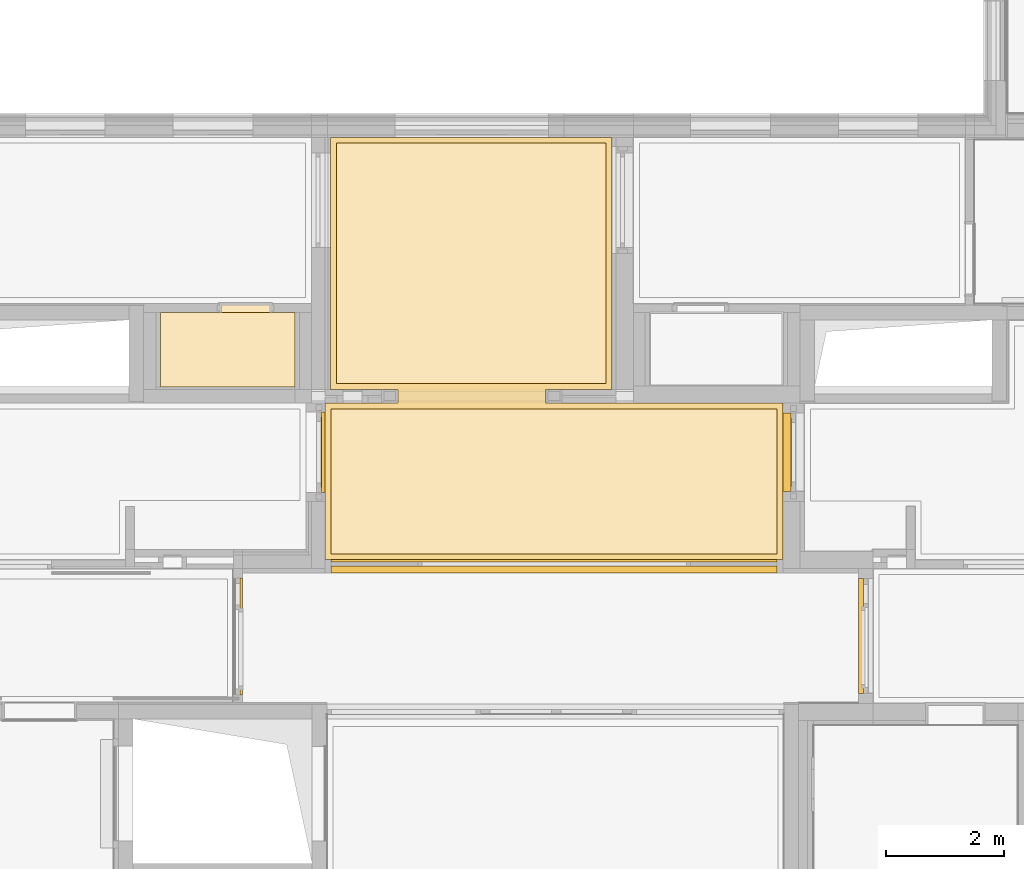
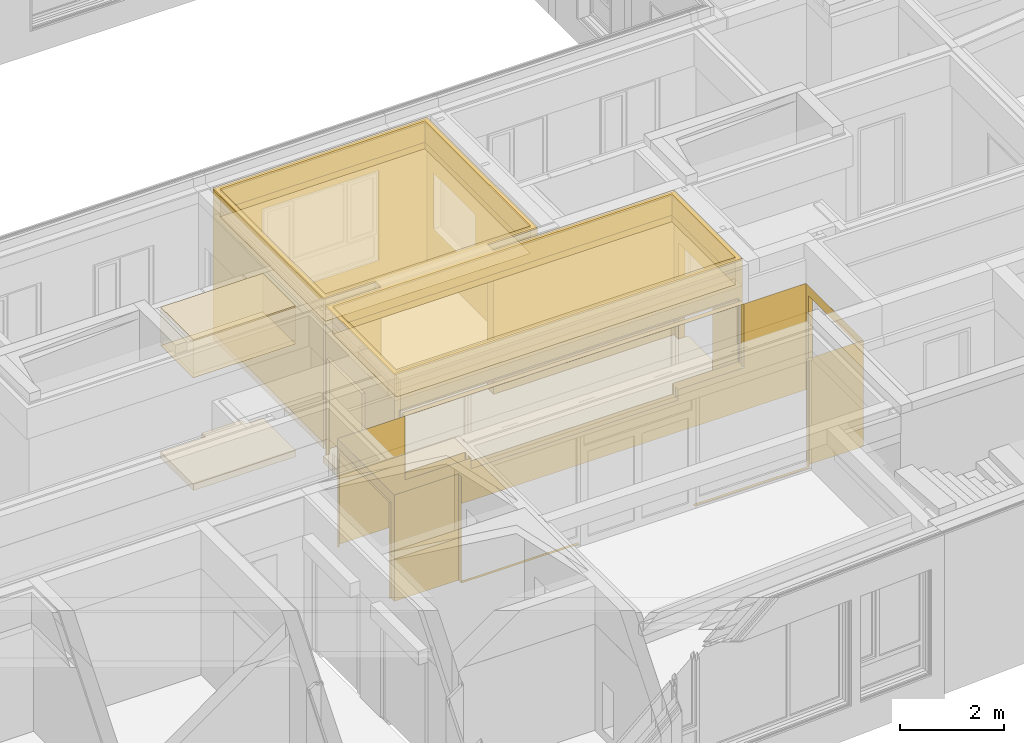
# One storey, part 168 of 222: 20 coverings.
"""IFC4 building model written with IfcOpenShell, lengths in metres."""

from ifc_helpers import new_model, entity, si_unit, converted_unit, derived_unit, frame, frame_2d, origin, origin_with_axes, place, context, subcontext, project, spatial, polyline, rectangle, outline, extrude, material, layer, layer_set, layer_usage, element, save


model = new_model("IFC4")

# Units and contexts
model_context = context("Model", 3, precision=1e-05, world=origin())
body_context = subcontext(model_context, "Body", "Model", "MODEL_VIEW")
ifc_project = project(units=[si_unit("LENGTHUNIT", "METRE"), si_unit("AREAUNIT", "SQUARE_METRE"), si_unit("VOLUMEUNIT", "CUBIC_METRE"), si_unit("MASSUNIT", "GRAM", prefix="KILO"), converted_unit("PLANEANGLEUNIT", "DEGREE", entity("IfcPlaneAngleMeasure", 0.0174532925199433), si_unit("PLANEANGLEUNIT", "RADIAN"), dimensions=[0, 0, 0, 0, 0, 0, 0]), derived_unit("THERMALTRANSMITTANCEUNIT", [(si_unit("POWERUNIT", "WATT"), 1), (si_unit("THERMODYNAMICTEMPERATUREUNIT", "KELVIN"), -1), (si_unit("LENGTHUNIT", "METRE"), -2)]), derived_unit("VOLUMETRICFLOWRATEUNIT", [(si_unit("LENGTHUNIT", "METRE"), 3), (converted_unit("TIMEUNIT", "hour", entity("IfcTimeMeasure", 3600.0), si_unit("TIMEUNIT", "SECOND"), dimensions=[0, 0, 1, 0, 0, 0, 0]), -1), (si_unit("LENGTHUNIT", "METRE"), -1)])], contexts=[model_context])

# Site, building, storey, space
site_placement = place(None, origin())
site = spatial("IfcSite", under=ifc_project, at=site_placement, Name="Psychiatrie Neubau Wunstorf", CompositionType="ELEMENT")
building_placement = place(site_placement, origin())
building = spatial("IfcBuilding", under=site, at=building_placement, Name="Neubau H2 Stationsgebäude", CompositionType="ELEMENT")
storey_placement = place(building_placement, frame((0.0, 0.0, 3.6)))
storey = spatial("IfcBuildingStorey", under=building, at=storey_placement, Name="H2 Ebene +1", CompositionType="ELEMENT", Elevation=3.6)
space_1_placement = place(storey_placement, frame((49.119690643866, 0.436002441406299, 0.0)))
space_1 = spatial("IfcSpace", under=storey, at=space_1_placement, Name="WUN-H2-E01-F01", CompositionType="ELEMENT")

# Covering
ifc_material_1 = material(Name="49")
ifc_layer_1 = layer(ifc_material_1, 0.001)
ifc_layer_set_1 = layer_set([ifc_layer_1])
ifc_layer_usage_1 = layer_usage(ifc_layer_set_1, "AXIS3", "POSITIVE", 0.0)
covering_1_placement = place(space_1_placement, frame((-0.0375, 0.0, 0.15)))
element("IfcCovering", 1, at=covering_1_placement, inside=space_1, material=ifc_layer_usage_1, PredefinedType="CLADDING", context=body_context, shape_type="SweptSolid", body=[
    extrude(rectangle(XDim=0.113997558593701, YDim=2.5, at=frame_2d((0.0569987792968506, -1.25), x_axis=(1.0, 0.0))), frame((1.46780935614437, 0.113997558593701, 0.0), z_axis=(1.0, 0.0, 0.0), x_axis=(0.0, -1.0, 0.0)), (0.0, 0.0, 1.0), 0.001),
    extrude(rectangle(XDim=2.59899980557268, YDim=0.0500000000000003, at=frame_2d((1.2994999, -0.025), x_axis=(1.0, 0.0))), frame((1.46780935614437, 0.0, 0.0), z_axis=(0.0, 1.0, 0.0), x_axis=(1.0, 0.0, 0.0)), (0.0, 0.0, 1.0), 0.001),
    extrude(rectangle(XDim=0.0499999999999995, YDim=2.56900018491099, at=frame_2d((1.2845000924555, 0.0249999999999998), x_axis=(0.0, 1.0))), frame((6.62680917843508, 0.0, 0.0499999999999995), z_axis=(0.0, 1.0, 0.0), x_axis=(1.0, 0.0, 0.0)), (0.0, 0.0, 1.0), 0.001),
    extrude(rectangle(XDim=0.1, YDim=2.5, at=frame_2d((0.05, -1.25), x_axis=(1.0, 0.0))), frame((9.19580936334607, 0.0, 0.0), z_axis=(-1.0, 1.45519152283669e-13, 0.0), x_axis=(1.45519152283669e-13, 1.0, 0.0)), (0.0, 0.0, 1.0), 0.001),
    extrude(rectangle(XDim=1.26131381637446, YDim=2.5, at=frame_2d((0.630656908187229, -1.25), x_axis=(1.0, 0.0))), frame((9.19580936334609, 0.1, 0.0), z_axis=(2.90022717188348e-09, 1.0, 0.0), x_axis=(1.0, -2.90022717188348e-09, 0.0)), (0.0, 0.0, 1.0), 0.001),
    extrude(outline(polyline([(0.0, 2.5), (0.169992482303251, 2.5), (0.169992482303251, 0.24), (2.11249248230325, 0.24), (2.11249248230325, 2.5), (2.20649725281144, 2.5), (2.20649725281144, 0.0), (0.0, 0.0), (0.0, 2.5)])), frame((10.4571231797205, 0.0999999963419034, 2.5), z_axis=(-1.0, 5.74817194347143e-17, -2.85468523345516e-15), x_axis=(5.74817194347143e-17, 1.0, 0.0)), (0.0, 0.0, 1.0), 0.001),
    extrude(outline(polyline([(0.0, 2.5), (10.4196231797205, 2.5), (10.4196231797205, 0.0), (8.92131374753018, 0.0), (8.92131374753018, 1.5), (7.44881374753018, 1.5), (7.44881374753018, 1.75), (2.84121374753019, 1.75), (2.84121374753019, 1.5), (1.37931374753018, 1.5), (1.37931374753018, 0.0), (0.0, 0.0), (0.0, 2.5)])), frame((10.4571231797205, 2.30649724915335, 2.5), z_axis=(-9.47367501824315e-17, -1.0, 1.92250926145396e-18), x_axis=(-1.0, 9.47367501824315e-17, 0.0)), (0.0, 0.0, 1.0), 0.001),
    extrude(outline(polyline([(0.0, 2.5), (0.0799998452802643, 2.5), (0.0799998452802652, 0.24), (2.06249984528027, 0.24), (2.06249984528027, 2.5), (2.19249969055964, 2.5), (2.19249969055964, 0.0), (0.0, 0.0), (0.0, 2.5)])), frame((0.0375000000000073, 2.30649724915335, 2.5), z_axis=(1.0, 0.0, 1.89734166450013e-15), x_axis=(0.0, -1.0, 0.0)), (0.0, 0.0, 1.0), 0.001),
    extrude(rectangle(XDim=1.43030935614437, YDim=2.5, at=frame_2d((0.715154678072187, -1.25), x_axis=(1.0, 0.0))), frame((0.0375, 0.113997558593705, 0.0), z_axis=(2.70245906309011e-15, 1.0, 0.0), x_axis=(1.0, -2.70245906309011e-15, 0.0)), (0.0, 0.0, 1.0), 0.001),
    extrude(rectangle(XDim=2.26, YDim=0.0849999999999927, at=frame_2d((0.0424999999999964, 1.13), x_axis=(0.0, 1.0))), frame((10.5421231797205, 2.21249247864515, 2.26), z_axis=(0.0, -1.0, 0.0), x_axis=(-1.0, 0.0, 0.0)), (0.0, 0.0, 1.0), 0.001),
    extrude(rectangle(XDim=1.9425, YDim=0.0849999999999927, at=frame_2d((-0.0425000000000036, -0.97125), x_axis=(-7.4913334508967e-15, -1.0))), frame((10.5421231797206, 0.269992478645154, 2.26), z_axis=(0.0, 0.0, -1.0), x_axis=(1.0, 0.0, 0.0)), (0.0, 0.0, 1.0), 0.001),
    extrude(rectangle(XDim=0.085, YDim=2.26, at=frame_2d((0.0425000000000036, -1.13), x_axis=(1.0, 0.0))), frame((10.4571231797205, 0.269992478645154, 0.0), z_axis=(6.68746104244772e-16, 1.0, -2.51519552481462e-17), x_axis=(1.0, -6.68746104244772e-16, 0.0)), (0.0, 0.0, 1.0), 0.001),
    extrude(rectangle(XDim=1.5, YDim=0.115, at=frame_2d((-0.0575, -0.75), x_axis=(0.0, -1.0))), frame((1.53580943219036, 2.30649724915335, 1.0), z_axis=(1.0, 0.0, 0.0), x_axis=(0.0, -1.0, 0.0)), (0.0, 0.0, 1.0), 0.001),
    extrude(rectangle(XDim=7.542, YDim=0.115, at=frame_2d((-3.771, 0.0574999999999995), x_axis=(-1.0, -1.20590652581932e-16))), frame((9.07780943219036, 2.42149724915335, 2.5), z_axis=(0.0, 0.0, -1.0), x_axis=(1.0, 0.0, 0.0)), (0.0, 0.0, 1.0), 0.001),
    extrude(rectangle(XDim=1.5, YDim=0.114999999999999, at=frame_2d((-0.0574999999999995, -0.75), x_axis=(0.0, -1.0))), frame((9.07780943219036, 2.42149724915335, 1.0), z_axis=(-1.0, 0.0, 0.0), x_axis=(0.0, 1.0, 0.0)), (0.0, 0.0, 1.0), 0.001),
    extrude(rectangle(XDim=0.25, YDim=0.115, at=frame_2d((-0.0574999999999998, -0.125), x_axis=(0.0, -1.0))), frame((7.61590943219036, 2.42149724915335, 0.75), z_axis=(-1.0, 0.0, 0.0), x_axis=(0.0, 1.0, 0.0)), (0.0, 0.0, 1.0), 0.001),
    extrude(rectangle(XDim=0.25, YDim=0.115, at=frame_2d((-0.0575, -0.125), x_axis=(0.0, -1.0))), frame((3.00830943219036, 2.30649724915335, 0.75), z_axis=(1.0, 0.0, 0.0), x_axis=(0.0, -1.0, 0.0)), (0.0, 0.0, 1.0), 0.001),
    extrude(rectangle(XDim=0.0375, YDim=2.26, at=frame_2d((0.01875, -1.13), x_axis=(1.0, 0.0))), frame((0.0375, 2.22649740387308, 0.0), z_axis=(0.0, -1.0, 0.0), x_axis=(-1.0, 0.0, 0.0)), (0.0, 0.0, 1.0), 0.001),
    extrude(rectangle(XDim=1.9825, YDim=0.0375, at=frame_2d((-0.01875, -0.99125), x_axis=(0.0, -1.0))), frame((0.0375, 0.243997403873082, 2.26), z_axis=(0.0, 0.0, -1.0), x_axis=(1.0, 0.0, 0.0)), (0.0, 0.0, 1.0), 0.001),
    extrude(rectangle(XDim=2.26, YDim=0.0375000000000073, at=frame_2d((0.01875, 1.13), x_axis=(-3.21945027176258e-15, 1.0))), frame((0.0, 0.243997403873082, 2.26), z_axis=(-1.51582450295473e-15, 1.0, -2.51519552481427e-17), x_axis=(1.0, 1.51582450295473e-15, 0.0)), (0.0, 0.0, 1.0), 0.001),
])

# Space
space_2_placement = place(storey_placement, frame((47.735, 5.88950021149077, 0.0)))
space_2 = spatial("IfcSpace", under=storey, at=space_2_placement, Name="WUN-H2-E01-012b", CompositionType="ELEMENT")

# Coverings
ifc_material_2 = material(Name="Fl1")
ifc_layer_2 = layer(ifc_material_2, 0.15)
ifc_layer_set_2 = layer_set([ifc_layer_2])
ifc_layer_usage_2 = layer_usage(ifc_layer_set_2, "AXIS3", "POSITIVE", 0.0)
covering_2_placement = place(space_2_placement, origin())
element("IfcCovering", 2, at=covering_2_placement, inside=space_2, material=ifc_layer_usage_2, Name="Fliesen", PredefinedType="FLOORING", context=body_context, shape_type="SweptSolid", body=[
    extrude(rectangle(XDim=0.15, YDim=0.885, at=frame_2d((0.4425, -0.075), x_axis=(0.0, -1.0))), frame((0.997500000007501, 1.41049947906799, 0.0), z_axis=(0.0, 0.0, 1.0), x_axis=(1.0, 0.0, 0.0)), (0.0, 0.0, 1.0), 0.15),
    extrude(outline(polyline([(2.27600000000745, 1.26049916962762), (0.0, 1.26049947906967), (0.0, 0.0), (2.27600000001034, 0.0), (2.27600000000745, 1.26049916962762)])), origin_with_axes(), (0.0, 0.0, 1.0), 0.15),
])
ifc_material_3 = material()
ifc_layer_3 = layer(ifc_material_3, 0.036)
ifc_layer_set_3 = layer_set([ifc_layer_3])
ifc_layer_usage_3 = layer_usage(ifc_layer_set_3, "AXIS3", "POSITIVE", 0.0)
covering_3_placement = place(space_2_placement, frame((0.0, 0.0, 3.55)))
element("IfcCovering", 3, at=covering_3_placement, inside=space_2, material=ifc_layer_usage_3, Name="Gipsfaserplatten 2-lagig (BSK)", PredefinedType="CEILING", context=body_context, shape_type="SweptSolid", body=[
    extrude(outline(polyline([(0.0, 0.0), (2.27600000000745, 3.09442053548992e-07), (2.27600000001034, 1.26049947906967), (0.0, 1.26049947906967), (0.0, 0.0)])), frame((0.0, 1.26049947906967, 0.0), z_axis=(0.0, 0.0, -1.0), x_axis=(1.0, 0.0, 0.0)), (0.0, 0.0, 1.0), 0.036),
])
ifc_material_4 = material(Name="Installationshöhe")
ifc_layer_4 = layer(ifc_material_4, 0.764)
ifc_layer_set_4 = layer_set([ifc_layer_4])
ifc_layer_usage_4 = layer_usage(ifc_layer_set_4, "AXIS3", "POSITIVE", 0.0)
covering_4_placement = place(space_2_placement, frame((0.0, 0.0, 3.514)))
element("IfcCovering", 4, at=covering_4_placement, inside=space_2, material=ifc_layer_usage_4, Name="Gipsfaserplatten 2-lagig (BSK)", PredefinedType="CEILING", context=body_context, shape_type="SweptSolid", body=[
    extrude(outline(polyline([(0.0, 0.0), (2.27600000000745, 3.09442053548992e-07), (2.27600000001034, 1.26049947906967), (0.0, 1.26049947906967), (0.0, 0.0)])), frame((0.0, 1.26049947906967, 0.0), z_axis=(0.0, 0.0, -1.0), x_axis=(1.0, 0.0, 0.0)), (0.0, 0.0, 1.0), 0.764),
])
ifc_material_5 = material(Name="B")
ifc_layer_5 = layer(ifc_material_5, 0.1)
ifc_layer_set_5 = layer_set([ifc_layer_5])
ifc_layer_usage_5 = layer_usage(ifc_layer_set_5, "AXIS3", "POSITIVE", 0.0)
covering_5_placement = place(space_2_placement, frame((0.0, 0.0, 2.75)))
element("IfcCovering", 5, at=covering_5_placement, inside=space_2, material=ifc_layer_usage_5, Name="Gipskarton, imprägniert", PredefinedType="CEILING", context=body_context, shape_type="SweptSolid", body=[
    extrude(outline(polyline([(0.0, 0.0), (2.27600000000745, 3.09442053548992e-07), (2.27600000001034, 1.26049947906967), (0.0, 1.26049947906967), (0.0, 0.0)])), frame((0.0, 1.26049947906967, 0.0), z_axis=(0.0, 0.0, -1.0), x_axis=(1.0, 0.0, 0.0)), (0.0, 0.0, 1.0), 0.1),
])
ifc_material_6 = material(Name="D1")
ifc_layer_6 = layer(ifc_material_6, 0.001)
ifc_layer_set_6 = layer_set([ifc_layer_6])
ifc_layer_usage_6 = layer_usage(ifc_layer_set_6, "AXIS3", "POSITIVE", 0.0)
covering_6_placement = place(space_2_placement, frame((0.0, 0.0, 2.65)))
element("IfcCovering", 6, at=covering_6_placement, inside=space_2, material=ifc_layer_usage_6, Name="Gipsfaserplatten 2-lagig (BSK)", PredefinedType="CEILING", context=body_context, shape_type="SweptSolid", body=[
    extrude(outline(polyline([(0.0, 0.0), (2.27600000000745, 3.09442053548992e-07), (2.27600000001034, 1.26049947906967), (0.0, 1.26049947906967), (0.0, 0.0)])), frame((0.0, 1.26049947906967, 0.0), z_axis=(0.0, 0.0, -1.0), x_axis=(1.0, 0.0, 0.0)), (0.0, 0.0, 1.0), 0.001),
])

# Space
space_3_placement = place(storey_placement, frame((50.5180000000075, 2.96749969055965, 0.0)))
space_3 = spatial("IfcSpace", under=storey, at=space_3_placement, Name="WUN-H2-E01-073", CompositionType="ELEMENT")

# Coverings
ifc_material_7 = material()
ifc_layer_7 = layer(ifc_material_7, 0.036)
ifc_layer_set_7 = layer_set([ifc_layer_7])
ifc_layer_usage_7 = layer_usage(ifc_layer_set_7, "AXIS3", "POSITIVE", 0.0)
covering_7_placement = place(space_3_placement, frame((0.1, 0.0999999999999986, 3.55)))
element("IfcCovering", 7, at=covering_7_placement, inside=space_3, material=ifc_layer_usage_7, Name="Gipsfaserplatten 2-lagig (BSK)", PredefinedType="CEILING", context=body_context, shape_type="SweptSolid", body=[
    extrude(rectangle(XDim=2.45000052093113, YDim=7.5419891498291, at=frame_2d((3.77099455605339, -1.22500026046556), x_axis=(-1.53968614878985e-08, -1.0))), frame((3.77223186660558e-08, 0.0, 0.0), z_axis=(0.0, 0.0, -1.0), x_axis=(1.0, 0.0, 0.0)), (0.0, 0.0, 1.0), 0.036),
])
ifc_material_8 = material(Name="Installationshöhe")
ifc_layer_8 = layer(ifc_material_8, 0.464)
ifc_layer_set_8 = layer_set([ifc_layer_8])
ifc_layer_usage_8 = layer_usage(ifc_layer_set_8, "AXIS3", "POSITIVE", 0.0)
covering_8_placement = place(space_3_placement, frame((0.1, 0.0999999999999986, 3.514)))
element("IfcCovering", 8, at=covering_8_placement, inside=space_3, material=ifc_layer_usage_8, Name="Gipsfaserplatten 2-lagig (BSK)", PredefinedType="CEILING", context=body_context, shape_type="SweptSolid", body=[
    extrude(rectangle(XDim=2.45000052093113, YDim=7.5419891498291, at=frame_2d((3.77099455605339, -1.22500026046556), x_axis=(-1.53968614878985e-08, -1.0))), frame((3.77223186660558e-08, 0.0, 0.0), z_axis=(0.0, 0.0, -1.0), x_axis=(1.0, 0.0, 0.0)), (0.0, 0.0, 1.0), 0.464),
])
ifc_material_9 = material(Name="Aa")
ifc_layer_9 = layer(ifc_material_9, 0.15)
ifc_layer_set_9 = layer_set([ifc_layer_9])
ifc_layer_usage_9 = layer_usage(ifc_layer_set_9, "AXIS3", "POSITIVE", 0.0)
covering_9_placement = place(space_3_placement, frame((0.1, 0.0999999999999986, 3.05)))
element("IfcCovering", 9, at=covering_9_placement, inside=space_3, material=ifc_layer_usage_9, Name="Gipsfaserplatten 2-lagig (BSK)", PredefinedType="CEILING", context=body_context, shape_type="SweptSolid", body=[
    extrude(rectangle(XDim=2.45000052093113, YDim=7.5419891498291, at=frame_2d((3.77099455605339, -1.22500026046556), x_axis=(-1.53968614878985e-08, -1.0))), frame((3.77223186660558e-08, 0.0, 0.0), z_axis=(0.0, 0.0, -1.0), x_axis=(1.0, 0.0, 0.0)), (0.0, 0.0, 1.0), 0.15),
])
ifc_material_10 = material(Name="D1")
ifc_layer_10 = layer(ifc_material_10, 0.001)
ifc_layer_set_10 = layer_set([ifc_layer_10])
ifc_layer_usage_10 = layer_usage(ifc_layer_set_10, "AXIS3", "POSITIVE", 0.0)
covering_10_placement = place(space_3_placement, frame((0.1, 0.0999999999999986, 2.9)))
element("IfcCovering", 10, at=covering_10_placement, inside=space_3, material=ifc_layer_usage_10, Name="Gipsfaserplatten 2-lagig (BSK)", PredefinedType="CEILING", context=body_context, shape_type="SweptSolid", body=[
    extrude(rectangle(XDim=2.45000052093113, YDim=7.5419891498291, at=frame_2d((3.77099455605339, -1.22500026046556), x_axis=(-1.53968614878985e-08, -1.0))), frame((3.77223186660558e-08, 0.0, 0.0), z_axis=(0.0, 0.0, -1.0), x_axis=(1.0, 0.0, 0.0)), (0.0, 0.0, 1.0), 0.001),
])
ifc_material_11 = material()
ifc_layer_11 = layer(ifc_material_11, 0.036)
ifc_layer_set_11 = layer_set([ifc_layer_11])
ifc_layer_usage_11 = layer_usage(ifc_layer_set_11, "AXIS3", "POSITIVE", 0.0)
covering_11_placement = place(space_3_placement, frame((0.0, 0.0, 3.55)))
element("IfcCovering", 11, at=covering_11_placement, inside=space_3, material=ifc_layer_usage_11, Name="Gipsfaserplatten 2-lagig (BSK)", PredefinedType="CEILING", context=body_context, shape_type="SweptSolid", body=[
    extrude(outline(polyline([(0.0, 4.49650000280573), (1.23225000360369, 4.49650000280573), (1.23225000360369, 4.26450052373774), (0.0895000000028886, 4.26450000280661), (0.0895000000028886, 0.0), (4.84950000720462, 5.23736860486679e-07), (4.84950000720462, 4.26450052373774), (3.73225000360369, 4.26450052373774), (3.73225000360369, 4.49650052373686), (7.74200003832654, 4.49650052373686), (7.74200007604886, 7.14650052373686), (3.77223186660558e-08, 7.14650052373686), (0.0, 4.49650000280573)]), holes=[polyline([(4.74950000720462, 4.16450052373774), (4.74950000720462, 0.0998314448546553), (0.189500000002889, 0.1), (0.189500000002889, 4.16450000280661), (4.74950000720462, 4.16450052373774)]), polyline([(0.1, 4.59650000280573), (0.100000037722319, 7.04650052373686), (7.64198918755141, 7.04650052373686), (7.6419891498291, 4.59650000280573), (0.1, 4.59650000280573)])]), frame((0.0, 7.14650052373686, 0.0), z_axis=(0.0, 0.0, -1.0), x_axis=(1.0, 0.0, 0.0)), (0.0, 0.0, 1.0), 0.036),
])
ifc_material_12 = material(Name="Installationshöhe")
ifc_layer_12 = layer(ifc_material_12, 0.464)
ifc_layer_set_12 = layer_set([ifc_layer_12])
ifc_layer_usage_12 = layer_usage(ifc_layer_set_12, "AXIS3", "POSITIVE", 0.0)
covering_12_placement = place(space_3_placement, frame((0.0, 0.0, 3.514)))
element("IfcCovering", 12, at=covering_12_placement, inside=space_3, material=ifc_layer_usage_12, Name="Gipsfaserplatten 2-lagig (BSK)", PredefinedType="CEILING", context=body_context, shape_type="SweptSolid", body=[
    extrude(outline(polyline([(0.0, 4.49650000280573), (1.23225000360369, 4.49650000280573), (1.23225000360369, 4.26450052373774), (0.0895000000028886, 4.26450000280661), (0.0895000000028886, 0.0), (4.84950000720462, 5.23736860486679e-07), (4.84950000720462, 4.26450052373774), (3.73225000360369, 4.26450052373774), (3.73225000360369, 4.49650052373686), (7.74200003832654, 4.49650052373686), (7.74200007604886, 7.14650052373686), (3.77223186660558e-08, 7.14650052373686), (0.0, 4.49650000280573)]), holes=[polyline([(4.74950000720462, 4.16450052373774), (4.74950000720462, 0.0998314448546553), (0.189500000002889, 0.1), (0.189500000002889, 4.16450000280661), (4.74950000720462, 4.16450052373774)]), polyline([(0.1, 4.59650000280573), (0.100000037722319, 7.04650052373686), (7.64198918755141, 7.04650052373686), (7.6419891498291, 4.59650000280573), (0.1, 4.59650000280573)])]), frame((0.0, 7.14650052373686, 0.0), z_axis=(0.0, 0.0, -1.0), x_axis=(1.0, 0.0, 0.0)), (0.0, 0.0, 1.0), 0.464),
])
ifc_material_13 = material(Name="A1")
ifc_layer_13 = layer(ifc_material_13, 0.15)
ifc_layer_set_13 = layer_set([ifc_layer_13])
ifc_layer_usage_13 = layer_usage(ifc_layer_set_13, "AXIS3", "POSITIVE", 0.0)
covering_13_placement = place(space_3_placement, frame((0.0, 0.0, 3.05)))
element("IfcCovering", 13, at=covering_13_placement, inside=space_3, material=ifc_layer_usage_13, Name="Gipsfaserplatten 2-lagig (BSK)", PredefinedType="CEILING", context=body_context, shape_type="SweptSolid", body=[
    extrude(outline(polyline([(0.0, 4.49650000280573), (1.23225000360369, 4.49650000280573), (1.23225000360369, 4.26450052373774), (0.0895000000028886, 4.26450000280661), (0.0895000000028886, 0.0), (4.84950000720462, 5.23736860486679e-07), (4.84950000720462, 4.26450052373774), (3.73225000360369, 4.26450052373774), (3.73225000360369, 4.49650052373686), (7.74200003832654, 4.49650052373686), (7.74200007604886, 7.14650052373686), (3.77223186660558e-08, 7.14650052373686), (0.0, 4.49650000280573)]), holes=[polyline([(4.74950000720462, 4.16450052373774), (4.74950000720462, 0.0998314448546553), (0.189500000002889, 0.1), (0.189500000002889, 4.16450000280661), (4.74950000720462, 4.16450052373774)]), polyline([(0.1, 4.59650000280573), (0.100000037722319, 7.04650052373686), (7.64198918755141, 7.04650052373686), (7.6419891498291, 4.59650000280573), (0.1, 4.59650000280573)])]), frame((0.0, 7.14650052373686, 0.0), z_axis=(0.0, 0.0, -1.0), x_axis=(1.0, 0.0, 0.0)), (0.0, 0.0, 1.0), 0.15),
])
ifc_material_14 = material(Name="D1")
ifc_layer_14 = layer(ifc_material_14, 0.001)
ifc_layer_set_14 = layer_set([ifc_layer_14])
ifc_layer_usage_14 = layer_usage(ifc_layer_set_14, "AXIS3", "POSITIVE", 0.0)
covering_14_placement = place(space_3_placement, frame((0.0, 0.0, 2.9)))
element("IfcCovering", 14, at=covering_14_placement, inside=space_3, material=ifc_layer_usage_14, Name="Gipsfaserplatten 2-lagig (BSK)", PredefinedType="CEILING", context=body_context, shape_type="SweptSolid", body=[
    extrude(outline(polyline([(0.0, 4.49650000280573), (1.23225000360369, 4.49650000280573), (1.23225000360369, 4.26450052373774), (0.0895000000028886, 4.26450000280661), (0.0895000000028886, 0.0), (4.84950000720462, 5.23736860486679e-07), (4.84950000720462, 4.26450052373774), (3.73225000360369, 4.26450052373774), (3.73225000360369, 4.49650052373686), (7.74200003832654, 4.49650052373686), (7.74200007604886, 7.14650052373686), (3.77223186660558e-08, 7.14650052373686), (0.0, 4.49650000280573)]), holes=[polyline([(4.74950000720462, 4.16450052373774), (4.74950000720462, 0.0998314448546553), (0.189500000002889, 0.1), (0.189500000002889, 4.16450000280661), (4.74950000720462, 4.16450052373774)]), polyline([(0.1, 4.59650000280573), (0.100000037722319, 7.04650052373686), (7.64198918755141, 7.04650052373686), (7.6419891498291, 4.59650000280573), (0.1, 4.59650000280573)])]), frame((0.0, 7.14650052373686, 0.0), z_axis=(0.0, 0.0, -1.0), x_axis=(1.0, 0.0, 0.0)), (0.0, 0.0, 1.0), 0.001),
])
ifc_material_15 = material()
ifc_layer_15 = layer(ifc_material_15, 0.036)
ifc_layer_set_15 = layer_set([ifc_layer_15])
ifc_layer_usage_15 = layer_usage(ifc_layer_set_15, "AXIS3", "POSITIVE", 0.0)
covering_15_placement = place(space_3_placement, frame((0.189500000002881, 2.98199999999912, 3.55)))
element("IfcCovering", 15, at=covering_15_placement, inside=space_3, material=ifc_layer_usage_15, Name="Gipsfaserplatten 2-lagig (BSK)", PredefinedType="CEILING", context=body_context, shape_type="SweptSolid", body=[
    extrude(outline(polyline([(0.0, 4.06466855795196), (0.0, 0.000168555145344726), (4.56000000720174, 0.0), (4.56000000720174, 4.06466907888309), (0.0, 4.06466855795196)])), frame((0.0, 4.06466907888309, 0.0), z_axis=(0.0, 0.0, -1.0), x_axis=(1.0, 0.0, 0.0)), (0.0, 0.0, 1.0), 0.036),
])
ifc_material_16 = material(Name="Installationshöhe")
ifc_layer_16 = layer(ifc_material_16, 0.464)
ifc_layer_set_16 = layer_set([ifc_layer_16])
ifc_layer_usage_16 = layer_usage(ifc_layer_set_16, "AXIS3", "POSITIVE", 0.0)
covering_16_placement = place(space_3_placement, frame((0.189500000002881, 2.98199999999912, 3.514)))
element("IfcCovering", 16, at=covering_16_placement, inside=space_3, material=ifc_layer_usage_16, Name="Gipsfaserplatten 2-lagig (BSK)", PredefinedType="CEILING", context=body_context, shape_type="SweptSolid", body=[
    extrude(outline(polyline([(0.0, 4.06466855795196), (0.0, 0.000168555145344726), (4.56000000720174, 0.0), (4.56000000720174, 4.06466907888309), (0.0, 4.06466855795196)])), frame((0.0, 4.06466907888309, 0.0), z_axis=(0.0, 0.0, -1.0), x_axis=(1.0, 0.0, 0.0)), (0.0, 0.0, 1.0), 0.464),
])
ifc_material_17 = material(Name="Aa")
ifc_layer_17 = layer(ifc_material_17, 0.15)
ifc_layer_set_17 = layer_set([ifc_layer_17])
ifc_layer_usage_17 = layer_usage(ifc_layer_set_17, "AXIS3", "POSITIVE", 0.0)
covering_17_placement = place(space_3_placement, frame((0.189500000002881, 2.98199999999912, 3.05)))
element("IfcCovering", 17, at=covering_17_placement, inside=space_3, material=ifc_layer_usage_17, Name="Gipsfaserplatten 2-lagig (BSK)", PredefinedType="CEILING", context=body_context, shape_type="SweptSolid", body=[
    extrude(outline(polyline([(0.0, 4.06466855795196), (0.0, 0.000168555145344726), (4.56000000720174, 0.0), (4.56000000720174, 4.06466907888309), (0.0, 4.06466855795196)])), frame((0.0, 4.06466907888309, 0.0), z_axis=(0.0, 0.0, -1.0), x_axis=(1.0, 0.0, 0.0)), (0.0, 0.0, 1.0), 0.15),
])
ifc_material_18 = material(Name="D1")
ifc_layer_18 = layer(ifc_material_18, 0.001)
ifc_layer_set_18 = layer_set([ifc_layer_18])
ifc_layer_usage_18 = layer_usage(ifc_layer_set_18, "AXIS3", "POSITIVE", 0.0)
covering_18_placement = place(space_3_placement, frame((0.189500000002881, 2.98199999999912, 2.9)))
element("IfcCovering", 18, at=covering_18_placement, inside=space_3, material=ifc_layer_usage_18, Name="Gipsfaserplatten 2-lagig (BSK)", PredefinedType="CEILING", context=body_context, shape_type="SweptSolid", body=[
    extrude(outline(polyline([(0.0, 4.06466855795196), (0.0, 0.000168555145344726), (4.56000000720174, 0.0), (4.56000000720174, 4.06466907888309), (0.0, 4.06466855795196)])), frame((0.0, 4.06466907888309, 0.0), z_axis=(0.0, 0.0, -1.0), x_axis=(1.0, 0.0, 0.0)), (0.0, 0.0, 1.0), 0.001),
])
ifc_material_19 = material(Name="Ku1")
ifc_layer_19 = layer(ifc_material_19, 0.15)
ifc_layer_set_19 = layer_set([ifc_layer_19])
ifc_layer_usage_19 = layer_usage(ifc_layer_set_19, "AXIS3", "POSITIVE", 0.0)
covering_19_placement = place(space_3_placement, frame((-0.145000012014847, 0.0, 0.0)))
element("IfcCovering", 19, at=covering_19_placement, inside=space_3, material=ifc_layer_usage_19, Name="PVC Bahnenware Holzoptik", PredefinedType="FLOORING", context=body_context, shape_type="SweptSolid", body=[
    extrude(rectangle(XDim=0.223000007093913, YDim=1.325, at=frame_2d((0.111499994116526, 0.6625), x_axis=(1.0, 0.0))), frame((7.88700005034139, 1.15497757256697, 0.0), z_axis=(0.0, 0.0, 1.0), x_axis=(1.0, 0.0, 0.0)), (0.0, 0.0, 1.0), 0.15),
    extrude(rectangle(XDim=0.14499999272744, YDim=1.355, at=frame_2d((0.0724999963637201, 0.6775), x_axis=(1.0, 0.0))), frame((1.92874067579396e-08, 1.14000051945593, 0.0), z_axis=(0.0, 0.0, 1.0), x_axis=(1.0, 0.0, 0.0)), (0.0, 0.0, 1.0), 0.15),
    extrude(outline(polyline([(0.0895000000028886, 2.88200052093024), (1.23225000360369, 2.88199999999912), (1.23225000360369, 2.65000052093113), (0.0, 2.65000052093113), (3.77223186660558e-08, 0.0), (7.74200007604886, 0.0), (7.74200003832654, 2.65), (3.73225000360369, 2.65), (3.73225000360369, 2.88199999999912), (4.84950000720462, 2.88199999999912), (4.84950000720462, 7.1465), (0.0895000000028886, 7.1465), (0.0895000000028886, 2.88200052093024)])), frame((0.145000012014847, 0.0, 0.0), z_axis=(0.0, 0.0, 1.0), x_axis=(1.0, 0.0, 0.0)), (0.0, 0.0, 1.0), 0.15),
])
ifc_material_20 = material(Name="49")
ifc_layer_20 = layer(ifc_material_20, 0.001)
ifc_layer_set_20 = layer_set([ifc_layer_20])
ifc_layer_usage_20 = layer_usage(ifc_layer_set_20, "AXIS3", "POSITIVE", 0.0)
covering_20_placement = place(space_3_placement, frame((-0.0649999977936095, -0.0400000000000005, 0.15)))
element("IfcCovering", 20, at=covering_20_placement, inside=space_3, material=ifc_layer_usage_20, PredefinedType="CLADDING", context=body_context, shape_type="SweptSolid", body=[
    extrude(outline(polyline([(0.0, 3.15), (4.76000000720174, 3.15), (4.76000000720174, 0.0), (0.0, 0.0), (0.0, 3.15)]), holes=[polyline([(3.66882286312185, 2.75), (1.06882286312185, 2.75), (1.06882286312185, 0.635), (3.66882286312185, 0.635), (3.66882286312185, 2.75)])]), frame((4.91450000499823, 7.1865, 3.15), z_axis=(0.0, -1.0, 0.0), x_axis=(-1.0, 0.0, 0.0)), (0.0, 0.0, 1.0), 0.001),
    extrude(rectangle(XDim=4.26449947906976, YDim=3.15, at=frame_2d((2.13224973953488, -1.575), x_axis=(1.0, 0.0))), frame((0.154499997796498, 7.1865, 0.0), z_axis=(1.0, 0.0, 0.0), x_axis=(0.0, -1.0, 0.0)), (0.0, 0.0, 1.0), 0.001),
    extrude(rectangle(XDim=1.14275000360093, YDim=3.15, at=frame_2d((0.571375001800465, -1.575), x_axis=(1.0, 0.0))), frame((0.154499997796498, 2.92200052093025, 0.0), z_axis=(4.5585747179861e-07, 0.999999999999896, 0.0), x_axis=(0.999999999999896, -4.5585747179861e-07, 0.0)), (0.0, 0.0, 1.0), 0.001),
    extrude(rectangle(XDim=0.231999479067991, YDim=3.15, at=frame_2d((0.115999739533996, -1.575), x_axis=(1.0, 0.0))), frame((1.2972500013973, 2.92199999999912, 0.0), z_axis=(1.0, 0.0, 0.0), x_axis=(0.0, -1.0, 0.0)), (0.0, 0.0, 1.0), 0.001),
    extrude(rectangle(XDim=1.23225000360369, YDim=3.15, at=frame_2d((0.616125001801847, -1.575), x_axis=(1.0, 0.0))), frame((1.2972500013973, 2.69000052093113, 0.0), z_axis=(0.0, -1.0, 0.0), x_axis=(-1.0, 0.0, 0.0)), (0.0, 0.0, 1.0), 0.001),
    extrude(outline(polyline([(0.0, 3.15), (0.1550000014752, 3.15), (0.1550000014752, 0.89), (1.5100000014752, 0.89), (1.5100000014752, 3.15), (2.65000052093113, 3.15), (2.65000052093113, 0.0), (0.0, 0.0), (0.0, 3.15)])), frame((0.0649999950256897, 2.69000052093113, 3.15), z_axis=(1.0, 1.19590389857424e-08, 1.25747975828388e-09), x_axis=(1.19590389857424e-08, -1.0, 0.0)), (0.0, 0.0, 1.0), 0.001),
    extrude(outline(polyline([(0.0, 3.15), (7.74200003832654, 3.15), (7.74200003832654, 0.0), (0.0, 0.0), (0.0, 3.15)]), holes=[polyline([(7.64200003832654, 2.15), (6.18010003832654, 2.15), (6.18010003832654, 2.4), (1.57250003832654, 2.4), (1.57250003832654, 2.15), (0.100000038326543, 2.15), (0.100000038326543, 0.65), (7.64200003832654, 0.65), (7.64200003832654, 2.15)])]), frame((0.0650000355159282, 0.04, 3.15), z_axis=(7.77404958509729e-17, 1.0, 0.0), x_axis=(1.0, -7.77404958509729e-17, 0.0)), (0.0, 0.0, 1.0), 0.001),
    extrude(outline(polyline([(0.0, 3.15), (1.15497757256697, 3.15), (1.15497757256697, 0.89), (2.47997757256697, 0.89), (2.47997757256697, 3.15), (2.65, 3.15), (2.65, 0.0), (0.0, 0.0), (0.0, 3.15)])), frame((7.80700006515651, 0.04, 3.15), z_axis=(-1.0, -1.20030831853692e-08, -1.2331759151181e-09), x_axis=(-1.20030831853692e-08, 1.0, 0.0)), (0.0, 0.0, 1.0), 0.001),
    extrude(rectangle(XDim=4.00975003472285, YDim=3.15, at=frame_2d((2.00487501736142, -1.575), x_axis=(1.0, 0.0))), frame((7.80700003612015, 2.69, 0.0), z_axis=(0.0, -1.0, 0.0), x_axis=(-1.0, 0.0, 0.0)), (0.0, 0.0, 1.0), 0.001),
    extrude(rectangle(XDim=0.231999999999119, YDim=3.15, at=frame_2d((0.115999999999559, -1.575), x_axis=(1.0, 0.0))), frame((3.7972500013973, 2.69, 0.0), z_axis=(-1.0, 0.0, 0.0), x_axis=(0.0, 1.0, 0.0)), (0.0, 0.0, 1.0), 0.001),
    extrude(rectangle(XDim=1.11725000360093, YDim=3.15, at=frame_2d((0.558625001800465, -1.575), x_axis=(1.0, 0.0))), frame((3.7972500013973, 2.92199999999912, 0.0), z_axis=(0.0, 1.0, 0.0), x_axis=(1.0, 0.0, 0.0)), (0.0, 0.0, 1.0), 0.001),
    extrude(outline(polyline([(0.0, 3.15), (4.26450000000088, 3.15), (4.26450000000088, 0.0), (0.0, 0.0), (0.0, 3.15)]), holes=[polyline([(4.002, 2.225), (2.402, 2.225), (2.402, 0.915), (4.002, 0.915), (4.002, 2.225)])]), frame((4.91450000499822, 2.92199999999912, 3.15), z_axis=(-1.0, 0.0, 0.0), x_axis=(0.0, 1.0, 0.0)), (0.0, 0.0, 1.0), 0.001),
    extrude(rectangle(XDim=0.04, YDim=2.6, at=frame_2d((-1.3, -0.02), x_axis=(0.0, -1.0))), frame((3.84567714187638, 7.1865, 2.515), z_axis=(0.0, 0.0, -1.0), x_axis=(1.0, 0.0, 0.0)), (0.0, 0.0, 1.0), 0.001),
    extrude(rectangle(XDim=0.04, YDim=2.115, at=frame_2d((0.02, -1.0575), x_axis=(1.0, 0.0))), frame((3.84567714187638, 7.1865, 0.4), z_axis=(-1.0, 0.0, 0.0), x_axis=(0.0, 1.0, 0.0)), (0.0, 0.0, 1.0), 0.001),
    extrude(rectangle(XDim=2.115, YDim=0.04, at=frame_2d((-0.02, -1.0575), x_axis=(0.0, -1.0))), frame((1.24567714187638, 7.1865, 0.4), z_axis=(1.0, 0.0, 0.0), x_axis=(0.0, -1.0, 0.0)), (0.0, 0.0, 1.0), 0.001),
    extrude(rectangle(XDim=0.0649999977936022, YDim=2.26, at=frame_2d((0.0324999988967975, -1.13), x_axis=(1.0, 0.0))), frame((0.0649999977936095, 2.53500051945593, 0.0), z_axis=(0.0, -1.0, 0.0), x_axis=(-1.0, 0.0, 0.0)), (0.0, 0.0, 1.0), 0.001),
    extrude(outline(polyline([(0.064999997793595, 1.355), (0.064999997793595, 0.0), (0.0, 0.0), (1.92881925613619e-08, 1.355), (0.064999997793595, 1.355)])), frame((0.0, 2.53500051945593, 2.26), z_axis=(0.0, 0.0, -1.0), x_axis=(1.0, 0.0, 0.0)), (0.0, 0.0, 1.0), 0.001),
    extrude(rectangle(XDim=2.26, YDim=0.0649999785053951, at=frame_2d((0.0324999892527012, 1.13), x_axis=(3.21945027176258e-15, 1.0))), frame((1.92882071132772e-08, 1.18000051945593, 2.26), z_axis=(0.0, 1.0, 0.0), x_axis=(1.0, 0.0, 0.0)), (0.0, 0.0, 1.0), 0.001),
    extrude(rectangle(XDim=1.5, YDim=0.0399999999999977, at=frame_2d((-0.0199999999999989, -0.75), x_axis=(0.0, -1.0))), frame((0.165000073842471, 0.0, 1.0), z_axis=(1.0, 0.0, 0.0), x_axis=(0.0, -1.0, 0.0)), (0.0, 0.0, 1.0), 0.001),
    extrude(rectangle(XDim=7.542, YDim=0.0399999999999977, at=frame_2d((-3.771, 0.0199999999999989), x_axis=(-1.0, 0.0))), frame((7.70700007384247, 0.0399999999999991, 2.5), z_axis=(0.0, 0.0, -1.0), x_axis=(1.0, 0.0, 0.0)), (0.0, 0.0, 1.0), 0.001),
    extrude(rectangle(XDim=1.5, YDim=0.0399999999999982, at=frame_2d((-0.0199999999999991, -0.75), x_axis=(0.0, -1.0))), frame((7.70700007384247, 0.0399999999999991, 1.0), z_axis=(-1.0, 0.0, 0.0), x_axis=(0.0, 1.0, 0.0)), (0.0, 0.0, 1.0), 0.001),
    extrude(rectangle(XDim=0.25, YDim=0.0399999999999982, at=frame_2d((-0.0199999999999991, -0.125), x_axis=(0.0, -1.0))), frame((6.24510007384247, 0.0399999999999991, 0.75), z_axis=(-1.0, 0.0, 0.0), x_axis=(0.0, 1.0, 0.0)), (0.0, 0.0, 1.0), 0.001),
    extrude(rectangle(XDim=0.25, YDim=0.0399999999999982, at=frame_2d((-0.0199999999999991, -0.125), x_axis=(0.0, -1.0))), frame((1.63750007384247, 0.0, 0.75), z_axis=(1.0, 0.0, 0.0), x_axis=(0.0, -1.0, 0.0)), (0.0, 0.0, 1.0), 0.001),
    extrude(rectangle(XDim=2.26, YDim=0.143000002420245, at=frame_2d((0.0715000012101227, 1.13), x_axis=(0.0, 1.0))), frame((7.9500000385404, 2.51997757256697, 2.26), z_axis=(0.0, -1.0, 0.0), x_axis=(-1.0, 0.0, 0.0)), (0.0, 0.0, 1.0), 0.001),
    extrude(outline(polyline([(0.143000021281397, 1.325), (0.143000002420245, 0.0), (0.0, 0.0), (0.0, 1.325), (0.143000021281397, 1.325)])), frame((7.80700003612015, 2.51997757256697, 2.26), z_axis=(0.0, 0.0, -1.0), x_axis=(1.0, 0.0, 0.0)), (0.0, 0.0, 1.0), 0.001),
    extrude(rectangle(XDim=0.143000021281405, YDim=2.26, at=frame_2d((0.0715000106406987, -1.13), x_axis=(1.0, -3.18005093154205e-15))), frame((7.80700003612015, 1.19497757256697, 0.0), z_axis=(0.0, 1.0, 0.0), x_axis=(1.0, 0.0, 0.0)), (0.0, 0.0, 1.0), 0.001),
])

save(model, "model.ifc")
